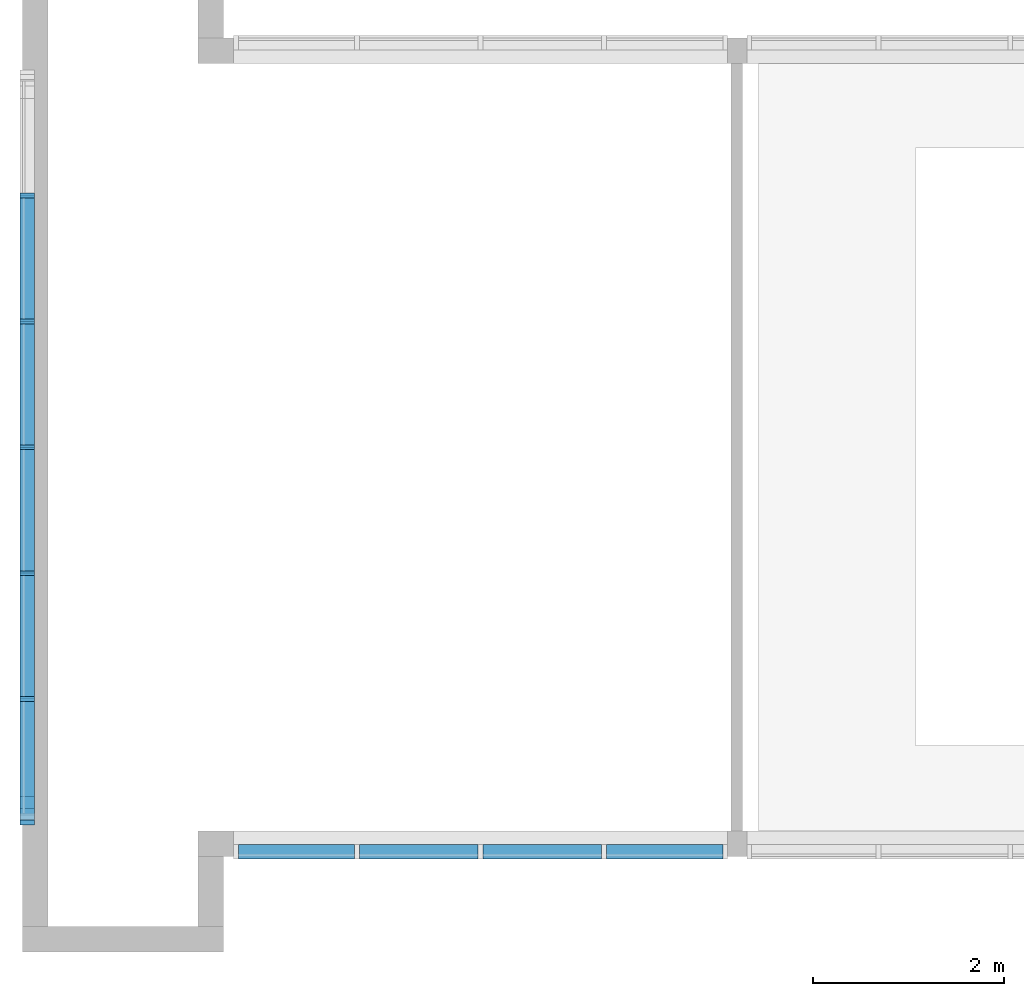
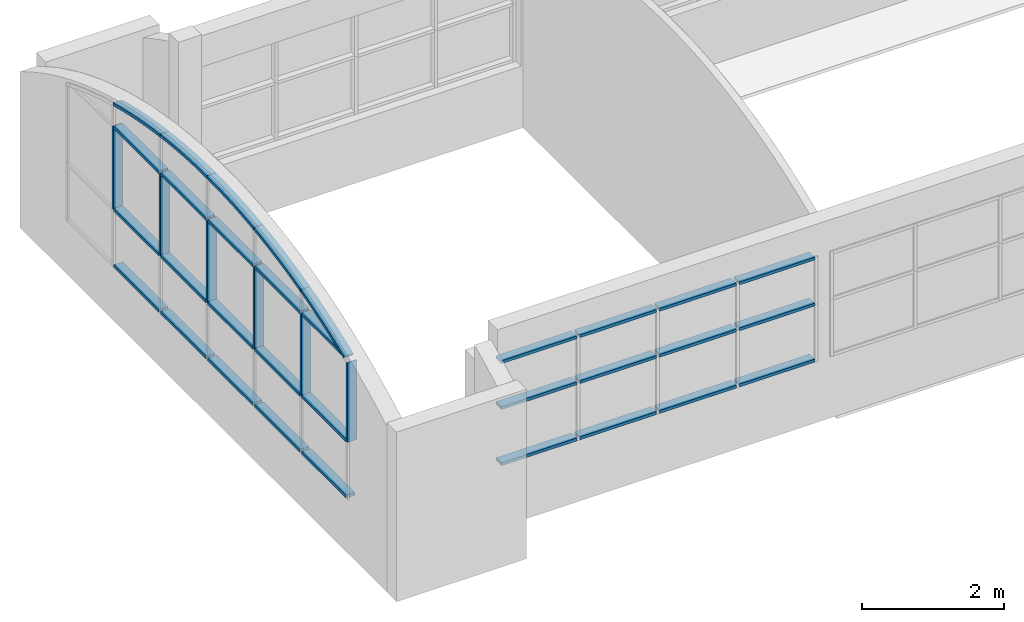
# One storey, part 1 of 14: 38 members, 2 elements without a shape of their own.
"""IFC2X3 building model written with IfcOpenShell, lengths in metres."""

from ifc_helpers import new_model, entity, si_unit, converted_unit, frame, frame_2d, origin, origin_2d_with_axis, place, context, project, spatial, polyline, circle_curve, parameter, trimmed, segment, composite_curve, rectangle, outline, extrude, source, transform, mapped, material, type_object, type_shapes, element, aggregate, save


model = new_model("IFC2X3")

# Units and contexts
model_context = context("Model", 3, precision=1e-09, world=origin())
plan_context = context("Plan", 3, precision=1e-09, world=origin())
ifc_project = project(units=[si_unit("LENGTHUNIT", "METRE"), si_unit("AREAUNIT", "SQUARE_METRE"), si_unit("VOLUMEUNIT", "CUBIC_METRE"), converted_unit("PLANEANGLEUNIT", "DEGREE", entity("IfcRatioMeasure", 0.01745329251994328), si_unit("PLANEANGLEUNIT", "RADIAN"), dimensions=[0, 0, 0, 0, 0, 0, 0]), si_unit("TIMEUNIT", "SECOND")], contexts=[model_context, plan_context])

# Site, building, storey
site_placement = place(None, origin())
site = spatial("IfcSite", under=ifc_project, at=site_placement, Name="Default", CompositionType="ELEMENT")
building_placement = place(site_placement, origin())
building = spatial("IfcBuilding", under=site, at=building_placement, CompositionType="ELEMENT")
storey_placement = place(building_placement, frame((0.0, 0.0, 9.25000000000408)))
storey = spatial("IfcBuildingStorey", under=building, at=storey_placement, Name="Roof - Main", CompositionType="ELEMENT", Elevation=9.25000000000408)

# Curtain wall, members
curtain_wall_1_placement = place(storey_placement, origin())
curtain_wall_1 = element("IfcCurtainWall", 1, at=curtain_wall_1_placement, inside=storey, Name="Curtain Wall:Storefront", ObjectType="Curtain Wall:Storefront")
ifc_material = material(Name="Metal - Aluminium")
member_type_1 = type_object("IfcMemberType", Name="50 x 150mm", PredefinedType="MULLION")
shared_shape_1 = source(origin(), model_context, "Body", "SweptSolid", [
    extrude(rectangle(XDim=0.05, YDim=0.15, at=origin_2d_with_axis()), frame((-0.025, 0.0, -1.244395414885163), z_axis=(0.0, 0.0, 1.0), x_axis=(-1.0, 0.0, 0.0)), (0.0, 0.0, 1.0), 1.244395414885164),
])
type_shapes(member_type_1, [shared_shape_1])
member_1_placement = place(storey_placement, frame((-40.99000000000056, 27.7868137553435, 1.067), z_axis=(0.0, -1.0, 0.0), x_axis=(0.0, 0.0, -1.0)))
member_1 = element("IfcMember", 2, at=member_1_placement, type_object=member_type_1, material=ifc_material, Name="Rectangular Mullion:50 x 150mm:50 x 150mm", ObjectType="50 x 150mm", context=model_context, shape_type="MappedRepresentation", body=[
    mapped(shared_shape_1, transform((0.0, 0.0, 0.0), scale=1.0)),
])
member_type_2 = type_object("IfcMemberType", Name="50 x 150mm", PredefinedType="MULLION")
shared_shape_2 = source(origin(), model_context, "Body", "SweptSolid", [
    extrude(rectangle(XDim=0.05, YDim=0.15, at=origin_2d_with_axis()), frame((-0.025, 0.0, -1.269395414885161), z_axis=(0.0, 0.0, 1.0), x_axis=(-1.0, 0.0, 0.0)), (0.0, 0.0, 1.0), 1.26939541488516),
])
type_shapes(member_type_2, [shared_shape_2])
member_2_placement = place(storey_placement, frame((-40.99000000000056, 29.08120917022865, 1.067), z_axis=(0.0, -1.0, 0.0), x_axis=(0.0, 0.0, -1.0)))
member_2 = element("IfcMember", 3, at=member_2_placement, type_object=member_type_2, material=ifc_material, Name="Rectangular Mullion:50 x 150mm:50 x 150mm", ObjectType="50 x 150mm", context=model_context, shape_type="MappedRepresentation", body=[
    mapped(shared_shape_2, transform((0.0, 0.0, 0.0), scale=1.0)),
])
member_3_placement = place(storey_placement, frame((-40.99000000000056, 30.40060458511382, 1.067), z_axis=(0.0, -1.0, 0.0), x_axis=(0.0, 0.0, -1.0)))
member_3 = element("IfcMember", 4, at=member_3_placement, type_object=member_type_2, material=ifc_material, Name="Rectangular Mullion:50 x 150mm:50 x 150mm", ObjectType="50 x 150mm", context=model_context, shape_type="MappedRepresentation", body=[
    mapped(shared_shape_2, transform((0.0, 0.0, 0.0), scale=1.0)),
])
member_4_placement = place(storey_placement, frame((-40.99000000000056, 31.71999999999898, 1.067), z_axis=(0.0, -1.0, 0.0), x_axis=(0.0, 0.0, -1.0)))
member_4 = element("IfcMember", 5, at=member_4_placement, type_object=member_type_2, material=ifc_material, Name="Rectangular Mullion:50 x 150mm:50 x 150mm", ObjectType="50 x 150mm", context=model_context, shape_type="MappedRepresentation", body=[
    mapped(shared_shape_2, transform((0.0, 0.0, 0.0), scale=1.0)),
])
member_5_placement = place(storey_placement, frame((-40.99000000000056, 33.03939541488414, 1.067), z_axis=(0.0, -1.0, 0.0), x_axis=(0.0, 0.0, -1.0)))
member_5 = element("IfcMember", 6, at=member_5_placement, type_object=member_type_2, material=ifc_material, Name="Rectangular Mullion:50 x 150mm:50 x 150mm", ObjectType="50 x 150mm", context=model_context, shape_type="MappedRepresentation", body=[
    mapped(shared_shape_2, transform((0.0, 0.0, 0.0), scale=1.0)),
])
member_type_3 = type_object("IfcMemberType", Name="50 x 150mm", PredefinedType="MULLION")
shared_shape_3 = source(origin(), model_context, "Body", "SweptSolid", [
    extrude(outline(polyline([(-0.6938774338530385, -0.025), (0.6772773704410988, -0.025), (0.6772773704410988, 0.025), (-0.6606773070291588, 0.025), (-0.6938774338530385, -0.025)])), frame((-0.025, -0.07499999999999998, -0.6938774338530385), z_axis=(0.0, 1.0, 0.0), x_axis=(0.0, 0.0, -1.0)), (0.0, 0.0, 1.0), 0.15),
])
type_shapes(member_type_3, [shared_shape_3])
member_6_placement = place(storey_placement, frame((-40.99000000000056, 27.73681375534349, 3.425049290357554), z_axis=(0.0, 0.0, 1.0), x_axis=(0.0, -1.0, 0.0)))
member_6 = element("IfcMember", 7, at=member_6_placement, type_object=member_type_3, material=ifc_material, Name="Rectangular Mullion:50 x 150mm:50 x 150mm", ObjectType="50 x 150mm", context=model_context, shape_type="MappedRepresentation", body=[
    mapped(shared_shape_3, transform((0.0, 0.0, 0.0), scale=1.0)),
])
member_type_4 = type_object("IfcMemberType", Name="50 x 150mm", PredefinedType="MULLION")
shared_shape_4 = source(origin(), model_context, "Body", "SweptSolid", [
    extrude(rectangle(XDim=0.05, YDim=0.15, at=origin_2d_with_axis()), frame((0.0, 0.0, -1.244395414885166), z_axis=(0.0, 0.0, 1.0), x_axis=(-1.0, 0.0, 0.0)), (0.0, 0.0, 1.0), 1.244395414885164),
])
type_shapes(member_type_4, [shared_shape_4])
member_7_placement = place(storey_placement, frame((-40.99000000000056, 29.03120917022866, 2.053894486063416), z_axis=(0.0, 1.0, 0.0), x_axis=(0.0, 0.0, 1.0)))
member_7 = element("IfcMember", 8, at=member_7_placement, type_object=member_type_4, material=ifc_material, Name="Rectangular Mullion:50 x 150mm:50 x 150mm", ObjectType="50 x 150mm", context=model_context, shape_type="MappedRepresentation", body=[
    mapped(shared_shape_4, transform((0.0, 0.0, 0.0), scale=1.0)),
])
member_type_5 = type_object("IfcMemberType", Name="50 x 150mm", PredefinedType="MULLION")
shared_shape_5 = source(origin(), model_context, "Body", "SweptSolid", [
    extrude(rectangle(XDim=0.05, YDim=0.15, at=origin_2d_with_axis()), frame((0.0, 0.0, -1.269395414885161), z_axis=(0.0, 0.0, 1.0), x_axis=(-1.0, 0.0, 0.0)), (0.0, 0.0, 1.0), 1.26939541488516),
])
type_shapes(member_type_5, [shared_shape_5])
member_8_placement = place(storey_placement, frame((-40.99000000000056, 30.35060458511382, 2.053894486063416), z_axis=(0.0, 1.0, 0.0), x_axis=(0.0, 0.0, 1.0)))
member_8 = element("IfcMember", 9, at=member_8_placement, type_object=member_type_5, material=ifc_material, Name="Rectangular Mullion:50 x 150mm:50 x 150mm", ObjectType="50 x 150mm", context=model_context, shape_type="MappedRepresentation", body=[
    mapped(shared_shape_5, transform((0.0, 0.0, 0.0), scale=1.0)),
])
member_9_placement = place(storey_placement, frame((-40.99000000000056, 31.66999999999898, 2.053894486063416), z_axis=(0.0, 1.0, 0.0), x_axis=(0.0, 0.0, 1.0)))
member_9 = element("IfcMember", 10, at=member_9_placement, type_object=member_type_5, material=ifc_material, Name="Rectangular Mullion:50 x 150mm:50 x 150mm", ObjectType="50 x 150mm", context=model_context, shape_type="MappedRepresentation", body=[
    mapped(shared_shape_5, transform((0.0, 0.0, 0.0), scale=1.0)),
])
member_10_placement = place(storey_placement, frame((-40.99000000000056, 32.98939541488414, 2.053894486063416), z_axis=(0.0, 1.0, 0.0), x_axis=(0.0, 0.0, 1.0)))
member_10 = element("IfcMember", 11, at=member_10_placement, type_object=member_type_5, material=ifc_material, Name="Rectangular Mullion:50 x 150mm:50 x 150mm", ObjectType="50 x 150mm", context=model_context, shape_type="MappedRepresentation", body=[
    mapped(shared_shape_5, transform((0.0, 0.0, 0.0), scale=1.0)),
])
member_11_placement = place(storey_placement, frame((-40.99000000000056, 34.30879082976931, 2.053894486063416), z_axis=(0.0, 1.0, 0.0), x_axis=(0.0, 0.0, 1.0)))
member_11 = element("IfcMember", 12, at=member_11_placement, type_object=member_type_5, material=ifc_material, Name="Rectangular Mullion:50 x 150mm:50 x 150mm", ObjectType="50 x 150mm", context=model_context, shape_type="MappedRepresentation", body=[
    mapped(shared_shape_5, transform((0.0, 0.0, 0.0), scale=1.0)),
])
member_12_placement = place(storey_placement, frame((-40.99000000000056, 30.35060458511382, 3.467), z_axis=(0.0, 1.0, 0.0), x_axis=(0.0, 0.0, 1.0)))
member_12 = element("IfcMember", 13, at=member_12_placement, type_object=member_type_5, material=ifc_material, Name="Rectangular Mullion:50 x 150mm:50 x 150mm", ObjectType="50 x 150mm", context=model_context, shape_type="MappedRepresentation", body=[
    mapped(shared_shape_5, transform((0.0, 0.0, 0.0), scale=1.0)),
])
member_13_placement = place(storey_placement, frame((-40.99000000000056, 31.66999999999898, 3.467), z_axis=(0.0, 1.0, 0.0), x_axis=(0.0, 0.0, 1.0)))
member_13 = element("IfcMember", 14, at=member_13_placement, type_object=member_type_5, material=ifc_material, Name="Rectangular Mullion:50 x 150mm:50 x 150mm", ObjectType="50 x 150mm", context=model_context, shape_type="MappedRepresentation", body=[
    mapped(shared_shape_5, transform((0.0, 0.0, 0.0), scale=1.0)),
])
member_14_placement = place(storey_placement, frame((-40.99000000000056, 32.98939541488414, 3.467), z_axis=(0.0, 1.0, 0.0), x_axis=(0.0, 0.0, 1.0)))
member_14 = element("IfcMember", 15, at=member_14_placement, type_object=member_type_5, material=ifc_material, Name="Rectangular Mullion:50 x 150mm:50 x 150mm", ObjectType="50 x 150mm", context=model_context, shape_type="MappedRepresentation", body=[
    mapped(shared_shape_5, transform((0.0, 0.0, 0.0), scale=1.0)),
])
member_15_placement = place(storey_placement, frame((-40.99000000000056, 34.30879082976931, 3.467), z_axis=(0.0, 1.0, 0.0), x_axis=(0.0, 0.0, 1.0)))
member_15 = element("IfcMember", 16, at=member_15_placement, type_object=member_type_5, material=ifc_material, Name="Rectangular Mullion:50 x 150mm:50 x 150mm", ObjectType="50 x 150mm", context=model_context, shape_type="MappedRepresentation", body=[
    mapped(shared_shape_5, transform((0.0, 0.0, 0.0), scale=1.0)),
])
member_type_6 = type_object("IfcMemberType", Name="50 x 150mm", PredefinedType="MULLION")
shared_shape_6 = source(origin(), model_context, "Body", "SweptSolid", [
    extrude(rectangle(XDim=0.05, YDim=0.15, at=origin_2d_with_axis()), frame((0.0, 0.0, -1.413105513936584), z_axis=(0.0, 0.0, 1.0), x_axis=(-1.0, 0.0, 0.0)), (0.0, 0.0, 1.0), 1.413105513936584),
])
type_shapes(member_type_6, [shared_shape_6])
member_16_placement = place(storey_placement, frame((-40.99000000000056, 29.05620917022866, 2.053894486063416), z_axis=(0.0, 0.0, -1.0), x_axis=(0.0, 1.0, 0.0)))
member_16 = element("IfcMember", 17, at=member_16_placement, type_object=member_type_6, material=ifc_material, Name="Rectangular Mullion:50 x 150mm:50 x 150mm", ObjectType="50 x 150mm", context=model_context, shape_type="MappedRepresentation", body=[
    mapped(shared_shape_6, transform((0.0, 0.0, 0.0), scale=1.0)),
])
member_17_placement = place(storey_placement, frame((-40.99000000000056, 30.37560458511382, 2.053894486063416), z_axis=(0.0, 0.0, -1.0), x_axis=(0.0, 1.0, 0.0)))
member_17 = element("IfcMember", 18, at=member_17_placement, type_object=member_type_6, material=ifc_material, Name="Rectangular Mullion:50 x 150mm:50 x 150mm", ObjectType="50 x 150mm", context=model_context, shape_type="MappedRepresentation", body=[
    mapped(shared_shape_6, transform((0.0, 0.0, 0.0), scale=1.0)),
])
member_18_placement = place(storey_placement, frame((-40.99000000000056, 31.69499999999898, 2.053894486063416), z_axis=(0.0, 0.0, -1.0), x_axis=(0.0, 1.0, 0.0)))
member_18 = element("IfcMember", 19, at=member_18_placement, type_object=member_type_6, material=ifc_material, Name="Rectangular Mullion:50 x 150mm:50 x 150mm", ObjectType="50 x 150mm", context=model_context, shape_type="MappedRepresentation", body=[
    mapped(shared_shape_6, transform((0.0, 0.0, 0.0), scale=1.0)),
])
member_19_placement = place(storey_placement, frame((-40.99000000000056, 33.01439541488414, 2.053894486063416), z_axis=(0.0, 0.0, -1.0), x_axis=(0.0, 1.0, 0.0)))
member_19 = element("IfcMember", 20, at=member_19_placement, type_object=member_type_6, material=ifc_material, Name="Rectangular Mullion:50 x 150mm:50 x 150mm", ObjectType="50 x 150mm", context=model_context, shape_type="MappedRepresentation", body=[
    mapped(shared_shape_6, transform((0.0, 0.0, 0.0), scale=1.0)),
])
member_20_placement = place(storey_placement, frame((-40.99000000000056, 34.33379082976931, 2.053894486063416), z_axis=(0.0, 0.0, -1.0), x_axis=(0.0, 1.0, 0.0)))
member_20 = element("IfcMember", 21, at=member_20_placement, type_object=member_type_6, material=ifc_material, Name="Rectangular Mullion:50 x 150mm:50 x 150mm", ObjectType="50 x 150mm", context=model_context, shape_type="MappedRepresentation", body=[
    mapped(shared_shape_6, transform((0.0, 0.0, 0.0), scale=1.0)),
])
member_type_7 = type_object("IfcMemberType", Name="50 x 150mm", PredefinedType="MULLION")
shared_shape_7 = source(origin(), model_context, "Body", "SweptSolid", [
    extrude(outline(composite_curve([segment(polyline([(-0.5291810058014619, -0.02500000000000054), (0.465752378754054, -0.02500000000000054)]), True, "CONTINUOUS"), segment(trimmed(circle_curve(frame_2d((-3.192971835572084, 9.443641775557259), x_axis=(0.2586813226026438, -0.9659627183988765)), 10.15093295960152), [parameter(6.134917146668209)], [parameter(6.904564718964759)], True, "PARAMETER"), True, "CONTINUOUS"), segment(polyline([(0.5926096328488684, 0.02499999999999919), (-0.5291810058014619, 0.02499999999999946)]), True, "CONTINUOUS"), segment(polyline([(-0.5291810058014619, 0.02499999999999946), (-0.5291810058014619, -0.02500000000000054)]), True, "CONTINUOUS")], self_intersect=False)), frame((0.0, -0.07499999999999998, -0.5291810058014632), z_axis=(0.0, 1.0, 0.0), x_axis=(0.0, 0.0, -1.0)), (0.0, 0.0, 1.0), 0.15),
])
type_shapes(member_type_7, [shared_shape_7])
member_21_placement = place(storey_placement, frame((-40.99000000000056, 29.03120917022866, 3.467), z_axis=(0.0, 1.0, 0.0), x_axis=(0.0, 0.0, 1.0)))
member_21 = element("IfcMember", 22, at=member_21_placement, type_object=member_type_7, material=ifc_material, Name="Rectangular Mullion:50 x 150mm:50 x 150mm", ObjectType="50 x 150mm", context=model_context, shape_type="MappedRepresentation", body=[
    mapped(shared_shape_7, transform((0.0, 0.0, 0.0), scale=1.0)),
])
member_type_8 = type_object("IfcMemberType", Name="50 x 150mm", PredefinedType="MULLION")
shared_shape_8 = source(origin(), model_context, "Body", "SweptSolid", [
    extrude(outline(composite_curve([segment(polyline([(-0.06539377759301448, -0.6398536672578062), (-0.01539377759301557, -0.6398536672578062)]), True, "CONTINUOUS"), segment(trimmed(circle_curve(frame_2d((10.13553918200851, -0.6398536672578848), x_axis=(-0.9920609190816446, 0.1257582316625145)), 10.15093295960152), [parameter(3.562221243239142e-13)], [parameter(7.224544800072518)], True, "PARAMETER"), False, "CONTINUOUS"), segment(polyline([(0.06519530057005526, 0.6367097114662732), (0.01559225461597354, 0.6429976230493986)]), True, "CONTINUOUS"), segment(trimmed(circle_curve(frame_2d((10.13553918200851, -0.6398536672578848), x_axis=(-0.9920609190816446, 0.1257582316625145)), 10.20093295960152), [parameter(3.562221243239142e-13)], [parameter(7.224544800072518)], True, "PARAMETER"), True, "CONTINUOUS")], self_intersect=False)), frame((-0.06539377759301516, -0.07499999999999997, -0.6398536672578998), z_axis=(0.0, 1.0, 0.0), x_axis=(-0.9920609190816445, 0.0, 0.1257582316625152)), (0.0, 0.0, 1.0), 0.15),
])
type_shapes(member_type_8, [shared_shape_8])
member_22_placement = place(storey_placement, frame((-40.99000000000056, 29.05620917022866, 3.877079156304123), z_axis=(0.0, 0.9659627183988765, 0.2586813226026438), x_axis=(0.0, -0.2586813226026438, 0.9659627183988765)))
member_22 = element("IfcMember", 23, at=member_22_placement, type_object=member_type_8, material=ifc_material, Name="Rectangular Mullion:50 x 150mm:50 x 150mm", ObjectType="50 x 150mm", context=model_context, shape_type="MappedRepresentation", body=[
    mapped(shared_shape_8, transform((0.0, 0.0, 0.0), scale=1.0)),
])
member_type_9 = type_object("IfcMemberType", Name="50 x 150mm", PredefinedType="MULLION")
shared_shape_9 = source(origin(), model_context, "Body", "SweptSolid", [
    extrude(outline(composite_curve([segment(polyline([(-0.06923042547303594, -0.66942476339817), (-0.01923042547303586, -0.6694247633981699)]), True, "CONTINUOUS"), segment(trimmed(circle_curve(frame_2d((10.13170253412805, -0.6694247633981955), x_axis=(-0.9913068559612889, 0.1315701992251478)), 10.15093295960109), [parameter(3.562221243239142e-13)], [parameter(7.560337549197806)], True, "PARAMETER"), False, "CONTINUOUS"), segment(polyline([(0.06901309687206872, 0.6661355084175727), (0.01944775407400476, 0.6727140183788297)]), True, "CONTINUOUS"), segment(trimmed(circle_curve(frame_2d((10.13170253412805, -0.6694247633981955), x_axis=(-0.9913068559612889, 0.1315701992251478)), 10.20093295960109), [parameter(3.562221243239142e-13)], [parameter(7.560337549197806)], True, "PARAMETER"), True, "CONTINUOUS")], self_intersect=False)), frame((-0.06923042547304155, -0.07499999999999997, -0.6694247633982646), z_axis=(0.0, 1.0, 0.0), x_axis=(-0.9913068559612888, 0.0, 0.1315701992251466)), (0.0, 0.0, 1.0), 0.15),
])
type_shapes(member_type_9, [shared_shape_9])
member_23_placement = place(storey_placement, frame((-40.99000000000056, 30.37560458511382, 4.138605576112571), z_axis=(0.0, 0.9916002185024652, 0.1293406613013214), x_axis=(0.0, -0.1293406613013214, 0.9916002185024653)))
member_23 = element("IfcMember", 24, at=member_23_placement, type_object=member_type_9, material=ifc_material, Name="Rectangular Mullion:50 x 150mm:50 x 150mm", ObjectType="50 x 150mm", context=model_context, shape_type="MappedRepresentation", body=[
    mapped(shared_shape_9, transform((0.0, 0.0, 0.0), scale=1.0)),
])
member_type_10 = type_object("IfcMemberType", Name="50 x 150mm", PredefinedType="MULLION")
shared_shape_10 = source(origin(), model_context, "Body", "SweptSolid", [
    extrude(outline(composite_curve([segment(polyline([(-0.06773780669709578, -0.6580809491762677), (-0.01773780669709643, -0.6580809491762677)]), True, "CONTINUOUS"), segment(trimmed(circle_curve(frame_2d((10.13319515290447, -0.6580809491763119), x_axis=(-0.9916002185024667, 0.1293406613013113)), 10.15093295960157), [parameter(3.562221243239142e-13)], [parameter(7.431493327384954)], True, "PARAMETER"), False, "CONTINUOUS"), segment(polyline([(0.06752781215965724, 0.6548474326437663), (0.01794780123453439, 0.6613144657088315)]), True, "CONTINUOUS"), segment(trimmed(circle_curve(frame_2d((10.13319515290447, -0.6580809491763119), x_axis=(-0.9916002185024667, 0.1293406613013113)), 10.20093295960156), [parameter(3.562221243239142e-13)], [parameter(7.431493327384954)], True, "PARAMETER"), True, "CONTINUOUS")], self_intersect=False)), frame((-0.06773780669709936, -0.07499999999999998, -0.6580809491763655), z_axis=(0.0, 1.0, 0.0), x_axis=(-0.9916002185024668, 0.0, 0.1293406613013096)), (0.0, 0.0, 1.0), 0.15),
])
type_shapes(member_type_10, [shared_shape_10])
member_24_placement = place(storey_placement, frame((-40.99000000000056, 31.69499999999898, 4.224291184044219), z_axis=(0.0, 1.0, 0.0), x_axis=(0.0, 0.0, 1.0)))
member_24 = element("IfcMember", 25, at=member_24_placement, type_object=member_type_10, material=ifc_material, Name="Rectangular Mullion:50 x 150mm:50 x 150mm", ObjectType="50 x 150mm", context=model_context, shape_type="MappedRepresentation", body=[
    mapped(shared_shape_10, transform((0.0, 0.0, 0.0), scale=1.0)),
])
member_type_11 = type_object("IfcMemberType", Name="50 x 150mm", PredefinedType="MULLION")
shared_shape_11 = source(origin(), model_context, "Body", "SweptSolid", [
    extrude(outline(composite_curve([segment(polyline([(-0.06773780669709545, -0.6580809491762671), (-0.01773780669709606, -0.658080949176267)]), True, "CONTINUOUS"), segment(trimmed(circle_curve(frame_2d((10.13319515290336, -0.6580809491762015), x_axis=(-0.9916002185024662, 0.1293406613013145)), 10.15093295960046), [parameter(3.562221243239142e-13)], [parameter(7.431493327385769)], True, "PARAMETER"), False, "CONTINUOUS"), segment(polyline([(0.06752781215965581, 0.6548474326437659), (0.01794780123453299, 0.6613144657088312)]), True, "CONTINUOUS"), segment(trimmed(circle_curve(frame_2d((10.13319515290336, -0.6580809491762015), x_axis=(-0.9916002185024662, 0.1293406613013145)), 10.20093295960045), [parameter(3.562221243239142e-13)], [parameter(7.431493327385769)], True, "PARAMETER"), True, "CONTINUOUS")], self_intersect=False)), frame((-0.06773780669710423, -0.07499999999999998, -0.6580809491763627), z_axis=(0.0, 1.0, 0.0), x_axis=(-0.9916002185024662, 0.0, 0.1293406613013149)), (0.0, 0.0, 1.0), 0.15),
])
type_shapes(member_type_11, [shared_shape_11])
member_25_placement = place(storey_placement, frame((-40.99000000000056, 33.01439541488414, 4.138605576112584), z_axis=(0.0, 0.9916002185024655, -0.1293406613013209), x_axis=(0.0, 0.1293406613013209, 0.9916002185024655)))
member_25 = element("IfcMember", 26, at=member_25_placement, type_object=member_type_11, material=ifc_material, Name="Rectangular Mullion:50 x 150mm:50 x 150mm", ObjectType="50 x 150mm", context=model_context, shape_type="MappedRepresentation", body=[
    mapped(shared_shape_11, transform((0.0, 0.0, 0.0), scale=1.0)),
])
member_type_12 = type_object("IfcMemberType", Name="50 x 150mm", PredefinedType="MULLION")
shared_shape_12 = source(origin(), model_context, "Body", "SweptSolid", [
    extrude(outline(composite_curve([segment(polyline([(-0.06923042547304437, -0.6694247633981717), (-0.01923042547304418, -0.6694247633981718)]), True, "CONTINUOUS"), segment(trimmed(circle_curve(frame_2d((10.13170253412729, -0.6694247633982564), x_axis=(-0.9913068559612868, 0.1315701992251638)), 10.15093295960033), [parameter(3.562221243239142e-13)], [parameter(7.560337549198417)], True, "PARAMETER"), False, "CONTINUOUS"), segment(polyline([(0.06901309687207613, 0.6661355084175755), (0.01944775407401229, 0.6727140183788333)]), True, "CONTINUOUS"), segment(trimmed(circle_curve(frame_2d((10.13170253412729, -0.6694247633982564), x_axis=(-0.9913068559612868, 0.1315701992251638)), 10.20093295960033), [parameter(3.562221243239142e-13)], [parameter(7.560337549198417)], True, "PARAMETER"), True, "CONTINUOUS")], self_intersect=False)), frame((-0.06923042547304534, -0.07499999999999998, -0.6694247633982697), z_axis=(0.0, 1.0, 0.0), x_axis=(-0.9913068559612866, 0.0, 0.1315701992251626)), (0.0, 0.0, 1.0), 0.1499999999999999),
])
type_shapes(member_type_12, [shared_shape_12])
member_26_placement = place(storey_placement, frame((-40.99000000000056, 34.33379082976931, 3.877079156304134), z_axis=(0.0, 0.9659627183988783, -0.2586813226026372), x_axis=(0.0, 0.2586813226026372, 0.9659627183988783)))
member_26 = element("IfcMember", 27, at=member_26_placement, type_object=member_type_12, material=ifc_material, Name="Rectangular Mullion:50 x 150mm:50 x 150mm", ObjectType="50 x 150mm", context=model_context, shape_type="MappedRepresentation", body=[
    mapped(shared_shape_12, transform((0.0, 0.0, 0.0), scale=1.0)),
])
aggregate(curtain_wall_1, [member_1, member_2, member_3, member_4, member_5, member_6, member_7, member_8, member_9, member_10, member_11, member_16, member_17, member_18, member_19, member_20, member_21, member_12, member_13, member_14, member_15, member_22, member_23, member_24, member_25, member_26])

curtain_wall_2_placement = place(storey_placement, origin())
curtain_wall_2 = element("IfcCurtainWall", 28, at=curtain_wall_2_placement, inside=storey, Name="Curtain Wall:Storefront", ObjectType="Curtain Wall:Storefront")
member_type_13 = type_object("IfcMemberType", Name="50 x 150mm", PredefinedType="MULLION")
shared_shape_13 = source(origin(), model_context, "Body", "SweptSolid", [
    extrude(rectangle(XDim=0.05, YDim=0.15, at=origin_2d_with_axis()), frame((-0.025, 0.0, -1.220000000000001), z_axis=(0.0, 0.0, 1.0), x_axis=(-1.0, 0.0, 0.0)), (0.0, 0.0, 1.0), 1.22),
])
type_shapes(member_type_13, [shared_shape_13])
member_27_placement = place(storey_placement, frame((-37.55600000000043, 27.45559600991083, 2.867), z_axis=(1.0, 0.0, 0.0), x_axis=(0.0, 0.0, 1.0)))
member_27 = element("IfcMember", 29, at=member_27_placement, type_object=member_type_13, material=ifc_material, Name="Rectangular Mullion:50 x 150mm:50 x 150mm", ObjectType="50 x 150mm", context=model_context, shape_type="MappedRepresentation", body=[
    mapped(shared_shape_13, transform((0.0, 0.0, 0.0), scale=1.0)),
])
member_28_placement = place(storey_placement, frame((-33.69600000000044, 27.45559600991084, 2.867), z_axis=(1.0, 0.0, 0.0), x_axis=(0.0, 0.0, 1.0)))
member_28 = element("IfcMember", 30, at=member_28_placement, type_object=member_type_13, material=ifc_material, Name="Rectangular Mullion:50 x 150mm:50 x 150mm", ObjectType="50 x 150mm", context=model_context, shape_type="MappedRepresentation", body=[
    mapped(shared_shape_13, transform((0.0, 0.0, 0.0), scale=1.0)),
])
member_type_14 = type_object("IfcMemberType", Name="50 x 150mm", PredefinedType="MULLION")
shared_shape_14 = source(origin(), model_context, "Body", "SweptSolid", [
    extrude(rectangle(XDim=0.05, YDim=0.15, at=origin_2d_with_axis()), frame((-0.025, 0.0, -1.245000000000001), z_axis=(0.0, 0.0, 1.0), x_axis=(-1.0, 0.0, 0.0)), (0.0, 0.0, 1.0), 1.245),
])
type_shapes(member_type_14, [shared_shape_14])
member_29_placement = place(storey_placement, frame((-36.26100000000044, 27.45559600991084, 2.867), z_axis=(1.0, 0.0, 0.0), x_axis=(0.0, 0.0, 1.0)))
member_29 = element("IfcMember", 31, at=member_29_placement, type_object=member_type_14, material=ifc_material, Name="Rectangular Mullion:50 x 150mm:50 x 150mm", ObjectType="50 x 150mm", context=model_context, shape_type="MappedRepresentation", body=[
    mapped(shared_shape_14, transform((0.0, 0.0, 0.0), scale=1.0)),
])
member_30_placement = place(storey_placement, frame((-34.96600000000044, 27.45559600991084, 2.867), z_axis=(1.0, 0.0, 0.0), x_axis=(0.0, 0.0, 1.0)))
member_30 = element("IfcMember", 32, at=member_30_placement, type_object=member_type_14, material=ifc_material, Name="Rectangular Mullion:50 x 150mm:50 x 150mm", ObjectType="50 x 150mm", context=model_context, shape_type="MappedRepresentation", body=[
    mapped(shared_shape_14, transform((0.0, 0.0, 0.0), scale=1.0)),
])
member_type_15 = type_object("IfcMemberType", Name="50 x 150mm", PredefinedType="MULLION")
shared_shape_15 = source(origin(), model_context, "Body", "SweptSolid", [
    extrude(rectangle(XDim=0.05, YDim=0.15, at=origin_2d_with_axis()), frame((-0.025, 0.0, -1.219999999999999), z_axis=(0.0, 0.0, 1.0), x_axis=(-1.0, 0.0, 0.0)), (0.0, 0.0, 1.0), 1.22),
])
type_shapes(member_type_15, [shared_shape_15])
member_31_placement = place(storey_placement, frame((-38.77600000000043, 27.45559600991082, 1.067), z_axis=(-1.0, 0.0, 0.0), x_axis=(0.0, 0.0, -1.0)))
member_31 = element("IfcMember", 33, at=member_31_placement, type_object=member_type_15, material=ifc_material, Name="Rectangular Mullion:50 x 150mm:50 x 150mm", ObjectType="50 x 150mm", context=model_context, shape_type="MappedRepresentation", body=[
    mapped(shared_shape_15, transform((0.0, 0.0, 0.0), scale=1.0)),
])
member_32_placement = place(storey_placement, frame((-34.91600000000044, 27.45559600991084, 1.067), z_axis=(-1.0, 0.0, 0.0), x_axis=(0.0, 0.0, -1.0)))
member_32 = element("IfcMember", 34, at=member_32_placement, type_object=member_type_15, material=ifc_material, Name="Rectangular Mullion:50 x 150mm:50 x 150mm", ObjectType="50 x 150mm", context=model_context, shape_type="MappedRepresentation", body=[
    mapped(shared_shape_15, transform((0.0, 0.0, 0.0), scale=1.0)),
])
member_type_16 = type_object("IfcMemberType", Name="50 x 150mm", PredefinedType="MULLION")
shared_shape_16 = source(origin(), model_context, "Body", "SweptSolid", [
    extrude(rectangle(XDim=0.05, YDim=0.15, at=origin_2d_with_axis()), frame((-0.025, 0.0, -1.245000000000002), z_axis=(0.0, 0.0, 1.0), x_axis=(-1.0, 0.0, 0.0)), (0.0, 0.0, 1.0), 1.245),
])
type_shapes(member_type_16, [shared_shape_16])
member_33_placement = place(storey_placement, frame((-37.50600000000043, 27.45559600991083, 1.067), z_axis=(-1.0, 0.0, 0.0), x_axis=(0.0, 0.0, -1.0)))
member_33 = element("IfcMember", 35, at=member_33_placement, type_object=member_type_16, material=ifc_material, Name="Rectangular Mullion:50 x 150mm:50 x 150mm", ObjectType="50 x 150mm", context=model_context, shape_type="MappedRepresentation", body=[
    mapped(shared_shape_16, transform((0.0, 0.0, 0.0), scale=1.0)),
])
member_34_placement = place(storey_placement, frame((-36.21100000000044, 27.45559600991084, 1.067), z_axis=(-1.0, 0.0, 0.0), x_axis=(0.0, 0.0, -1.0)))
member_34 = element("IfcMember", 36, at=member_34_placement, type_object=member_type_16, material=ifc_material, Name="Rectangular Mullion:50 x 150mm:50 x 150mm", ObjectType="50 x 150mm", context=model_context, shape_type="MappedRepresentation", body=[
    mapped(shared_shape_16, transform((0.0, 0.0, 0.0), scale=1.0)),
])
member_type_17 = type_object("IfcMemberType", Name="50 x 150mm", PredefinedType="MULLION")
shared_shape_17 = source(origin(), model_context, "Body", "SweptSolid", [
    extrude(rectangle(XDim=0.05, YDim=0.15, at=origin_2d_with_axis()), frame((0.0, 0.0, -1.220000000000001), z_axis=(0.0, 0.0, 1.0), x_axis=(-1.0, 0.0, 0.0)), (0.0, 0.0, 1.0), 1.22),
])
type_shapes(member_type_17, [shared_shape_17])
member_35_placement = place(storey_placement, frame((-37.55600000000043, 27.45559600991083, 2.053894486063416), z_axis=(1.0, 0.0, 0.0), x_axis=(0.0, 0.0, 1.0)))
member_35 = element("IfcMember", 37, at=member_35_placement, type_object=member_type_17, material=ifc_material, Name="Rectangular Mullion:50 x 150mm:50 x 150mm", ObjectType="50 x 150mm", context=model_context, shape_type="MappedRepresentation", body=[
    mapped(shared_shape_17, transform((0.0, 0.0, 0.0), scale=1.0)),
])
member_36_placement = place(storey_placement, frame((-33.69600000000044, 27.45559600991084, 2.053894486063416), z_axis=(1.0, 0.0, 0.0), x_axis=(0.0, 0.0, 1.0)))
member_36 = element("IfcMember", 38, at=member_36_placement, type_object=member_type_17, material=ifc_material, Name="Rectangular Mullion:50 x 150mm:50 x 150mm", ObjectType="50 x 150mm", context=model_context, shape_type="MappedRepresentation", body=[
    mapped(shared_shape_17, transform((0.0, 0.0, 0.0), scale=1.0)),
])
member_type_18 = type_object("IfcMemberType", Name="50 x 150mm", PredefinedType="MULLION")
shared_shape_18 = source(origin(), model_context, "Body", "SweptSolid", [
    extrude(rectangle(XDim=0.05, YDim=0.15, at=origin_2d_with_axis()), frame((0.0, 0.0, -1.245000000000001), z_axis=(0.0, 0.0, 1.0), x_axis=(-1.0, 0.0, 0.0)), (0.0, 0.0, 1.0), 1.245),
])
type_shapes(member_type_18, [shared_shape_18])
member_37_placement = place(storey_placement, frame((-36.26100000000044, 27.45559600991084, 2.053894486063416), z_axis=(1.0, 0.0, 0.0), x_axis=(0.0, 0.0, 1.0)))
member_37 = element("IfcMember", 39, at=member_37_placement, type_object=member_type_18, material=ifc_material, Name="Rectangular Mullion:50 x 150mm:50 x 150mm", ObjectType="50 x 150mm", context=model_context, shape_type="MappedRepresentation", body=[
    mapped(shared_shape_18, transform((0.0, 0.0, 0.0), scale=1.0)),
])
member_38_placement = place(storey_placement, frame((-34.96600000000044, 27.45559600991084, 2.053894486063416), z_axis=(1.0, 0.0, 0.0), x_axis=(0.0, 0.0, 1.0)))
member_38 = element("IfcMember", 40, at=member_38_placement, type_object=member_type_18, material=ifc_material, Name="Rectangular Mullion:50 x 150mm:50 x 150mm", ObjectType="50 x 150mm", context=model_context, shape_type="MappedRepresentation", body=[
    mapped(shared_shape_18, transform((0.0, 0.0, 0.0), scale=1.0)),
])
aggregate(curtain_wall_2, [member_27, member_29, member_30, member_31, member_33, member_34, member_32, member_35, member_37, member_38, member_36, member_28])

save(model, "model.ifc")
